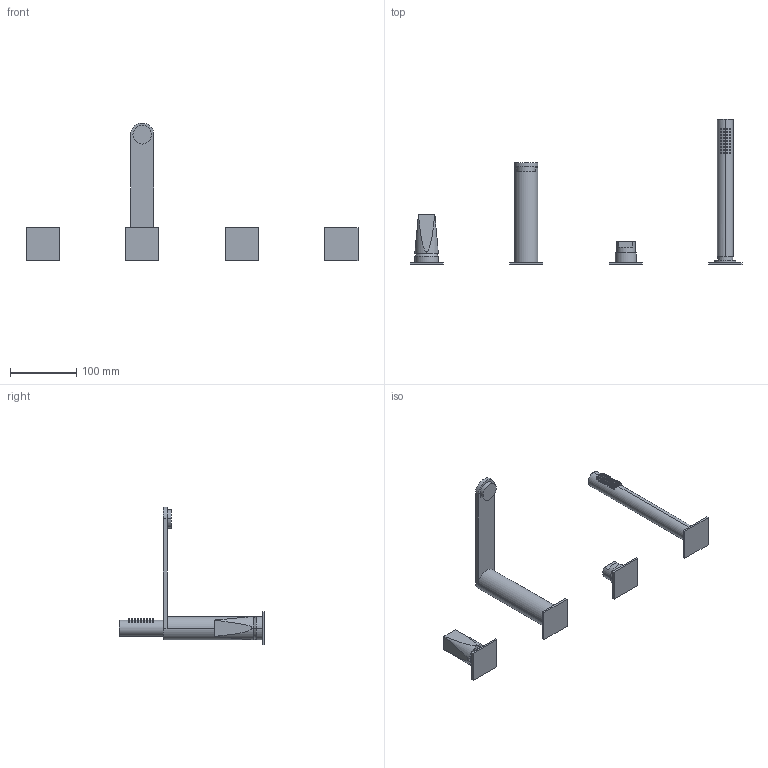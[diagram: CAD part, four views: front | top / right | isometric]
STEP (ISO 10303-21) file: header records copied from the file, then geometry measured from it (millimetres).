
FILE_DESCRIPTION((''),'2;1');
FILE_NAME('4902921_SW0001','2023-09-19T14:58:13',('carloff'),(''),'CREO PARAMETRIC BY PTC INC, 2022014','CREO PARAMETRIC BY PTC INC, 2022014','');
FILE_SCHEMA(('CONFIG_CONTROL_DESIGN'));
Length unit declared in the file: millimetre
Products named in the file (1): 4902921_SW0001
Bounding box: 500 x 219 x 207.5 mm (x, y, z)
Volume: 395591.7 mm3; surface area: 81003.8 mm2
Topology: 4 solids, 4 shells, 258 faces, 526 edges, 321 vertices
Faces by surface type: cylinder 91, torus 82, plane 79, bspline 2, sphere 2, cone 2
Entity records: 8764 total; most frequent: CARTESIAN_POINT 3225, DIRECTION 1244, ORIENTED_EDGE 1048, AXIS2_PLACEMENT_3D 542, EDGE_CURVE 524, VERTEX_POINT 321, EDGE_LOOP 305, CIRCLE 286
